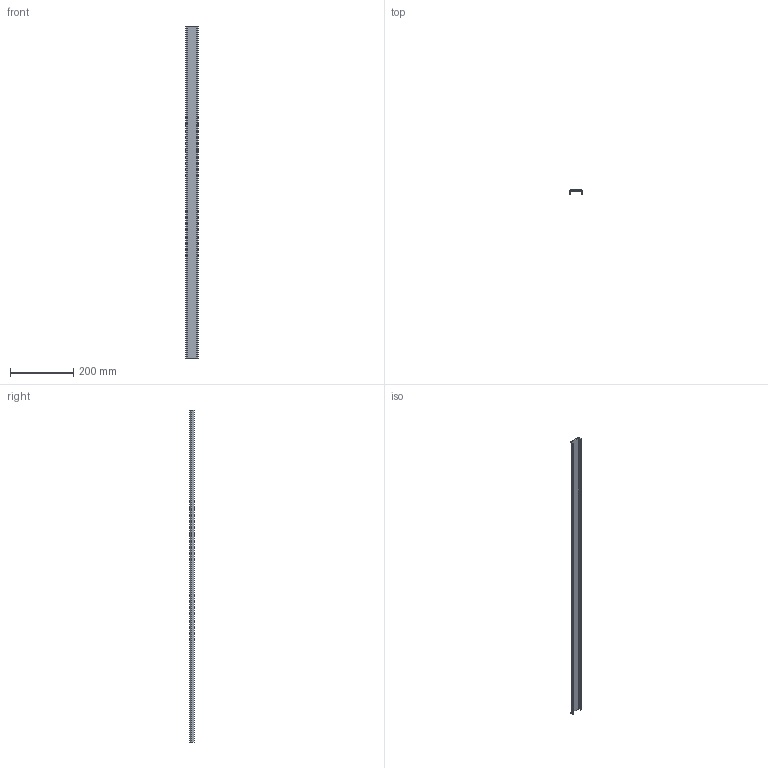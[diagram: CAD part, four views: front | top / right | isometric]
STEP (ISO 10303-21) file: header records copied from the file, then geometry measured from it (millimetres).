
FILE_DESCRIPTION (( 'STEP AP214' ), '1' );
FILE_NAME ('995-100 035 Welding-shield_window_1050.STEP', '2017-01-25T12:35:38', ( 'Rockwell Automation' ), ( 'Rockwell Automation' ), 'SwSTEP 2.0', 'SolidWorks 2014', '' );
FILE_SCHEMA (( 'AUTOMOTIVE_DESIGN' ));
Length unit declared in the file: millimetre
Products named in the file (1): 995-100 035 Welding-shield_window_1050
Bounding box: 38.1 x 12.7 x 1050 mm (x, y, z)
Volume: 172818.4 mm3; surface area: 121841.4 mm2
Topology: 1 solids, 1 shells, 14 faces, 36 edges, 24 vertices
Faces by surface type: plane 10, cylinder 4
Entity records: 616 total; most frequent: CARTESIAN_POINT 75, DIRECTION 74, ORIENTED_EDGE 72, EDGE_CURVE 36, LINE 28, VECTOR 28, VERTEX_POINT 24, AXIS2_PLACEMENT_3D 23
